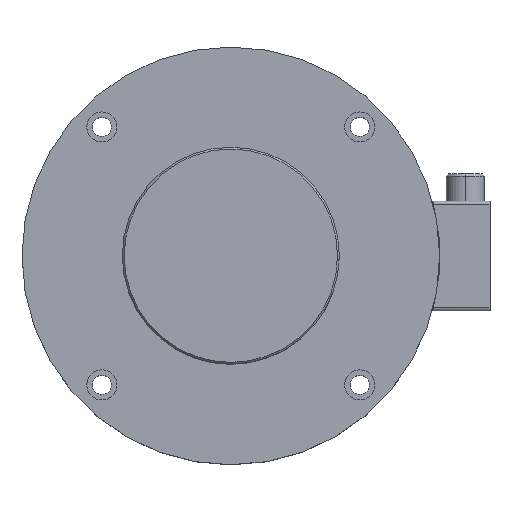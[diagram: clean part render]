
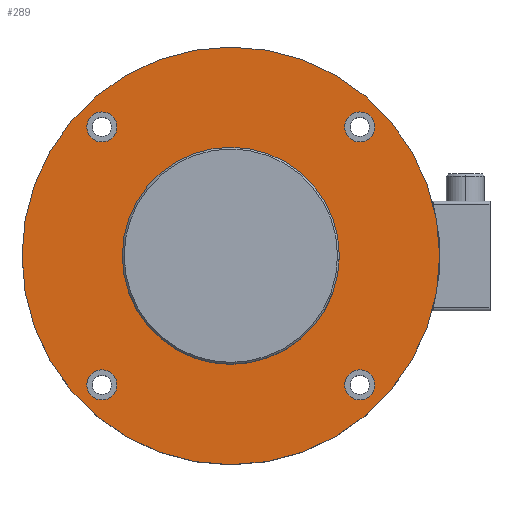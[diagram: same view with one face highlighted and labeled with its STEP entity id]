
A CAD part, top view. The second image highlights one B-rep face of the part: STEP entity #289.
In plain terms, the highlighted planar face has unit normal (0, 0, 1) as drawn and (0, 1, 0) by its records, which use the part's own axes.
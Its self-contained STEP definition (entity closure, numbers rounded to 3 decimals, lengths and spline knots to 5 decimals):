
#289=ADVANCED_FACE('0:184',(#545,#546,#547,#548,#549,#550),#551,.T.);
#545=FACE_OUTER_BOUND('',#811,.T.);
#546=FACE_BOUND('',#812,.T.);
#547=FACE_BOUND('',#813,.T.);
#548=FACE_BOUND('',#814,.T.);
#549=FACE_BOUND('',#815,.T.);
#550=FACE_BOUND('',#816,.T.);
#551=PLANE('',#817);
#811=EDGE_LOOP('',(#1279,#1280));
#812=EDGE_LOOP('',(#1281,#1282));
#813=EDGE_LOOP('',(#1283,#1284));
#814=EDGE_LOOP('',(#1285,#1286));
#815=EDGE_LOOP('',(#1287,#1288));
#816=EDGE_LOOP('',(#1289,#1290));
#817=AXIS2_PLACEMENT_3D('',#1291,#1292,#1293);
#1279=ORIENTED_EDGE('',*,*,#1656,.F.);
#1280=ORIENTED_EDGE('',*,*,#1666,.F.);
#1281=ORIENTED_EDGE('',*,*,#1616,.F.);
#1282=ORIENTED_EDGE('',*,*,#1690,.F.);
#1283=ORIENTED_EDGE('',*,*,#1621,.F.);
#1284=ORIENTED_EDGE('',*,*,#1687,.F.);
#1285=ORIENTED_EDGE('',*,*,#1626,.F.);
#1286=ORIENTED_EDGE('',*,*,#1684,.F.);
#1287=ORIENTED_EDGE('',*,*,#1646,.F.);
#1288=ORIENTED_EDGE('',*,*,#1672,.F.);
#1289=ORIENTED_EDGE('',*,*,#1693,.F.);
#1290=ORIENTED_EDGE('',*,*,#1609,.F.);
#1291=CARTESIAN_POINT('',(0.0435,0.06,0.0));
#1292=DIRECTION('',(0.0,1.0,0.0));
#1293=DIRECTION('',(1.0,0.0,-0.0));
#1609=EDGE_CURVE('0:264',#1872,#1874,#1875,.T.);
#1616=EDGE_CURVE('0:258',#1884,#1880,#1886,.T.);
#1621=EDGE_CURVE('0:252',#1893,#1889,#1895,.T.);
#1626=EDGE_CURVE('0:246',#1902,#1898,#1904,.T.);
#1646=EDGE_CURVE('0:222',#1938,#1934,#1940,.T.);
#1656=EDGE_CURVE('0:210',#1956,#1952,#1958,.T.);
#1666=EDGE_CURVE('0:210',#1952,#1956,#1972,.T.);
#1672=EDGE_CURVE('0:222',#1934,#1938,#1978,.T.);
#1684=EDGE_CURVE('0:246',#1898,#1902,#1990,.T.);
#1687=EDGE_CURVE('0:252',#1889,#1893,#1993,.T.);
#1690=EDGE_CURVE('0:258',#1880,#1884,#1996,.T.);
#1693=EDGE_CURVE('0:264',#1874,#1872,#1999,.T.);
#1872=VERTEX_POINT('',#2228);
#1874=VERTEX_POINT('',#2230);
#1875=CIRCLE('',#2231,0.0424);
#1880=VERTEX_POINT('',#2236);
#1884=VERTEX_POINT('',#2241);
#1886=CIRCLE('',#2244,0.00825);
#1889=VERTEX_POINT('',#2247);
#1893=VERTEX_POINT('',#2252);
#1895=CIRCLE('',#2255,0.00825);
#1898=VERTEX_POINT('',#2258);
#1902=VERTEX_POINT('',#2263);
#1904=CIRCLE('',#2266,0.00825);
#1934=VERTEX_POINT('',#2302);
#1938=VERTEX_POINT('',#2307);
#1940=CIRCLE('',#2310,0.00825);
#1952=VERTEX_POINT('',#2324);
#1956=VERTEX_POINT('NONE',#2329);
#1958=CIRCLE('',#2332,0.1145);
#1972=CIRCLE('',#2348,0.1145);
#1978=CIRCLE('',#2354,0.00825);
#1990=CIRCLE('',#2366,0.00825);
#1993=CIRCLE('',#2369,0.00825);
#1996=CIRCLE('',#2372,0.00825);
#1999=CIRCLE('',#2375,0.0424);
#2228=CARTESIAN_POINT('',(0.,0.06,0.0424));
#2230=CARTESIAN_POINT('',(0.,0.06,-0.0424));
#2231=AXIS2_PLACEMENT_3D('',#2657,#2658,#2659);
#2236=CARTESIAN_POINT('',(-0.07071,0.06,-0.06246));
#2241=CARTESIAN_POINT('',(-0.07071,0.06,-0.07896));
#2244=AXIS2_PLACEMENT_3D('',#2671,#2672,#2673);
#2247=CARTESIAN_POINT('',(-0.07071,0.06,0.07896));
#2252=CARTESIAN_POINT('',(-0.07071,0.06,0.06246));
#2255=AXIS2_PLACEMENT_3D('',#2679,#2680,#2681);
#2258=CARTESIAN_POINT('',(0.07071,0.06,0.07896));
#2263=CARTESIAN_POINT('',(0.07071,0.06,0.06246));
#2266=AXIS2_PLACEMENT_3D('',#2687,#2688,#2689);
#2302=CARTESIAN_POINT('',(0.07071,0.06,-0.06246));
#2307=CARTESIAN_POINT('',(0.07071,0.06,-0.07896));
#2310=AXIS2_PLACEMENT_3D('',#2719,#2720,#2721);
#2324=CARTESIAN_POINT('',(0.,0.06,-0.1145));
#2329=CARTESIAN_POINT('',(0.,0.06,0.1145));
#2332=AXIS2_PLACEMENT_3D('',#2735,#2736,#2737);
#2348=AXIS2_PLACEMENT_3D('',#2752,#2753,#2754);
#2354=AXIS2_PLACEMENT_3D('',#2764,#2765,#2766);
#2366=AXIS2_PLACEMENT_3D('',#2788,#2789,#2790);
#2369=AXIS2_PLACEMENT_3D('',#2794,#2795,#2796);
#2372=AXIS2_PLACEMENT_3D('',#2800,#2801,#2802);
#2375=AXIS2_PLACEMENT_3D('',#2806,#2807,#2808);
#2657=CARTESIAN_POINT('',(0.0,0.06,0.0));
#2658=DIRECTION('',(0.0,1.0,0.0));
#2659=DIRECTION('',(0.0,0.0,1.0));
#2671=CARTESIAN_POINT('',(-0.07071,0.06,-0.07071));
#2672=DIRECTION('',(-0.0,1.0,0.0));
#2673=DIRECTION('',(1.0,0.0,0.));
#2679=CARTESIAN_POINT('',(-0.07071,0.06,0.07071));
#2680=DIRECTION('',(0.0,1.0,0.0));
#2681=DIRECTION('',(0.,0.0,-1.0));
#2687=CARTESIAN_POINT('',(0.07071,0.06,0.07071));
#2688=DIRECTION('',(0.0,1.0,0.0));
#2689=DIRECTION('',(-1.0,0.0,0.));
#2719=CARTESIAN_POINT('',(0.07071,0.06,-0.07071));
#2720=DIRECTION('',(0.0,1.0,0.0));
#2721=DIRECTION('',(0.0,0.0,1.0));
#2735=CARTESIAN_POINT('',(0.0,0.06,0.0));
#2736=DIRECTION('',(0.0,-1.0,0.0));
#2737=DIRECTION('',(0.0,0.0,-1.0));
#2752=CARTESIAN_POINT('',(0.0,0.06,0.0));
#2753=DIRECTION('',(0.0,-1.0,0.0));
#2754=DIRECTION('',(0.0,0.0,-1.0));
#2764=CARTESIAN_POINT('',(0.07071,0.06,-0.07071));
#2765=DIRECTION('',(0.0,1.0,0.0));
#2766=DIRECTION('',(0.0,0.0,1.0));
#2788=CARTESIAN_POINT('',(0.07071,0.06,0.07071));
#2789=DIRECTION('',(0.0,1.0,0.0));
#2790=DIRECTION('',(-1.0,0.0,0.));
#2794=CARTESIAN_POINT('',(-0.07071,0.06,0.07071));
#2795=DIRECTION('',(0.0,1.0,0.0));
#2796=DIRECTION('',(0.,0.0,-1.0));
#2800=CARTESIAN_POINT('',(-0.07071,0.06,-0.07071));
#2801=DIRECTION('',(-0.0,1.0,0.0));
#2802=DIRECTION('',(1.0,0.0,0.));
#2806=CARTESIAN_POINT('',(0.0,0.06,0.0));
#2807=DIRECTION('',(0.0,1.0,0.0));
#2808=DIRECTION('',(0.0,0.0,1.0));
